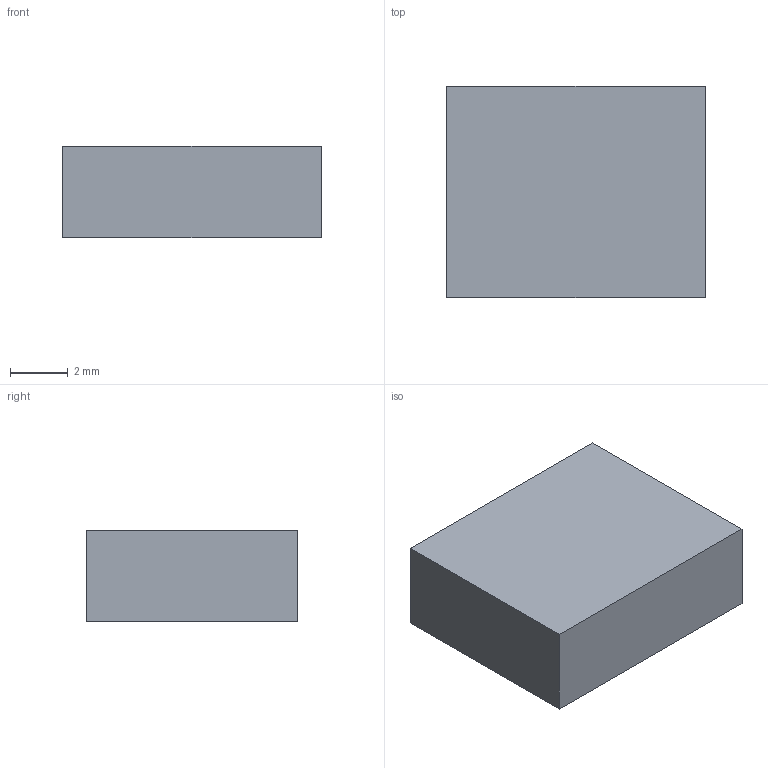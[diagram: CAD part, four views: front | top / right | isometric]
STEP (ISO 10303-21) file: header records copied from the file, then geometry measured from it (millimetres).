
FILE_DESCRIPTION(('tredder 3D model'),'2;1');
FILE_NAME('usb_c_hro_type_c_31_m_12.step','2026-01-01T00:00:00',(''),(''),'tredder step_writer','tredder','');
FILE_SCHEMA(('AUTOMOTIVE_DESIGN { 1 0 10303 214 1 1 1 1 }'));
Length unit declared in the file: millimetre
Products named in the file (1): usb_c_hro_type_c_31_m_12
Bounding box: 8.94 x 7.3 x 3.16 mm (x, y, z)
Volume: 206.2 mm3; surface area: 233.2 mm2
Topology: 1 solids, 1 shells, 6 faces, 12 edges, 8 vertices
Faces by surface type: plane 6
Entity records: 174 total; most frequent: CARTESIAN_POINT 27, DIRECTION 26, ORIENTED_EDGE 24, VECTOR 12, LINE 12, EDGE_CURVE 12, VERTEX_POINT 8, AXIS2_PLACEMENT_3D 7
